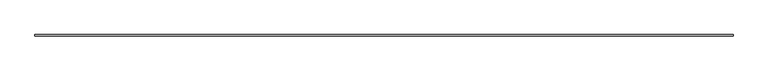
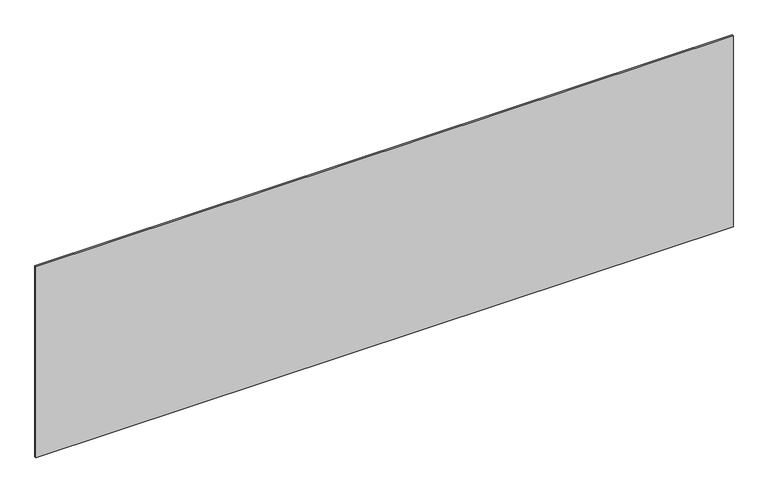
"""IFC4 building model written with IfcOpenShell, lengths in millimetres: plate geometry, システム パネル : 標準."""

from ifc_helpers import new_model, si_unit, origin, origin_with_axes, place, context, project, spatial, polyline, outline, extrude, source, transform, mapped, element, save


def plate_866a2cd3(model_context):
    return source(origin(), model_context, "Body", "SweptSolid", [
        extrude(outline(polyline([(2264.1666667, -5.0), (-2264.1666667, -5.0), (-2264.1666667, 5.0), (2264.1666667, 5.0), (2264.1666667, -5.0)])), origin_with_axes(), (0.0, 0.0, 1.0), 1312.0052046),
    ])


if __name__ == "__main__":
    model = new_model("IFC4")
    model_context = context("Model", 3, world=origin())
    ifc_project = project(units=[si_unit("LENGTHUNIT", "METRE", prefix="MILLI")], contexts=[model_context])
    site = spatial("IfcSite", under=ifc_project)
    building = spatial("IfcBuilding", under=site)
    placement = place(None, origin())
    plate_shape = plate_866a2cd3(model_context)
    element("IfcPlate", 1, ObjectType="システム パネル : 標準", at=placement, inside=building, context=model_context, shape_type="MappedRepresentation", body=[
        mapped(plate_shape, transform((0.0, 0.0, 0.0), x_axis=(1.0, 0.0, 0.0), y_axis=(0.0, 1.0, 0.0), z_axis=(0.0, 0.0, 1.0))),
    ])
    save(model, "model.ifc")
